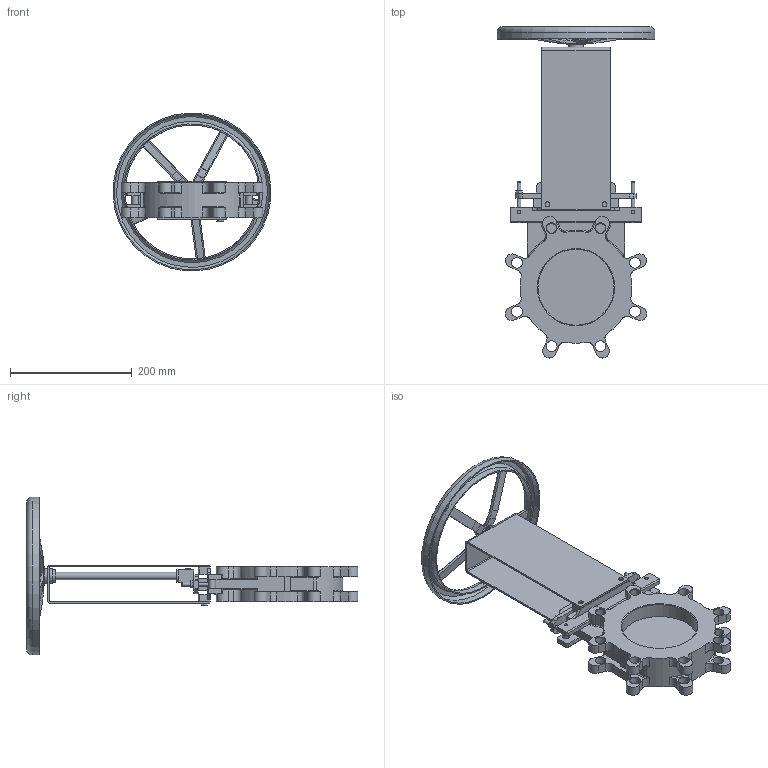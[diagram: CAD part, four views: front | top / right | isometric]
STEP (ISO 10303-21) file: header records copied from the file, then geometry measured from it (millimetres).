
FILE_DESCRIPTION(('STEP AP214'), '1');
FILE_NAME('GVKN1331N-2W-Fb-S Çàäâèæêà øèáåðíàÿ DN.ru Äó125 Ðó10', '', ('UNSPECIFIED'), ('UNSPECIFIED'), 'C3D Converter', 'C3D Toolkit', '');
FILE_SCHEMA(('AUTOMOTIVE_DESIGN { 1 0 10303 214 3 1 1}'));
Length unit declared in the file: millimetre
Products named in the file (1): GVKN1331N-2W-Fb-S
Bounding box: 259.51 x 545.84 x 259.51 mm (x, y, z)
Volume: 1734720.5 mm3; surface area: 472408.3 mm2
Topology: 2 solids, 3 shells, 699 faces, 1809 edges, 1144 vertices
Faces by surface type: plane 311, cylinder 221, bspline 68, torus 63, cone 35, sphere 1
Full cylindrical faces by diameter (mm): 4 x1, 6 x9, 7 x3, 8 x4, 10 x1, 12 x3, 16 x6, 18 x12, 20 x3, 24 x2, 26 x1, 30 x1, 125 x2, 220.161 x1, 224.161 x1, 256 x1, 260 x1
Entity records: 37754 total; most frequent: CARTESIAN_POINT 16129, ORIENTED_EDGE 3478, DIRECTION 3276, EDGE_CURVE 1739, AXIS2_PLACEMENT_3D 1216, VERTEX_POINT 1143, EDGE_LOOP 854, LINE 844
